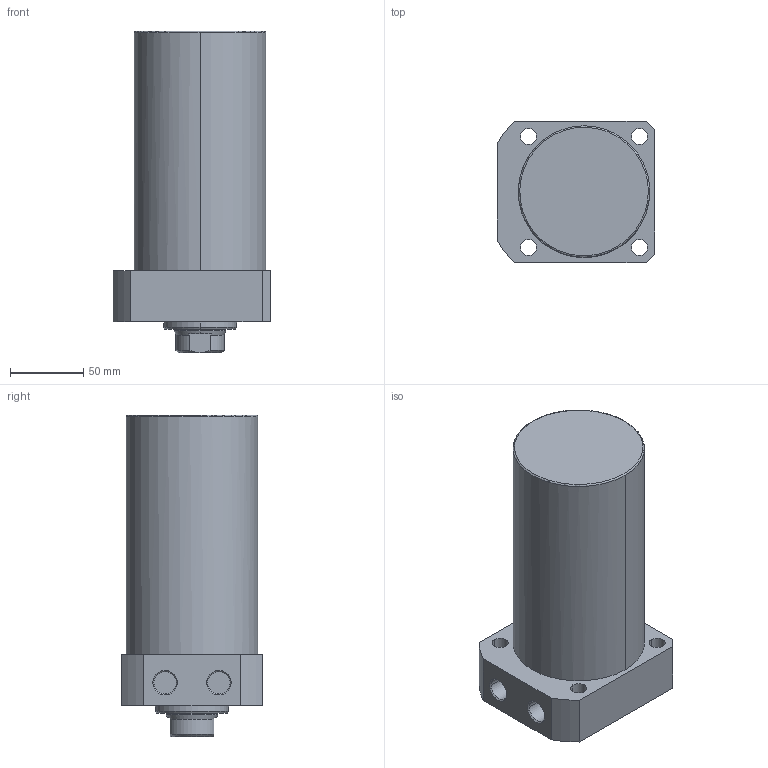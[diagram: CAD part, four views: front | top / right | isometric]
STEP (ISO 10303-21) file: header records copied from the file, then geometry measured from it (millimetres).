
FILE_DESCRIPTION((' '),'2;1');
FILE_NAME( 'TLLR-090CA-120.STEP.stp', '2025-10-24T16:35:18', (' '), ('--- Datakit www.datakit.com---'), ' Datakit CrossCadWare V2024.1 Dec 21 2023', 'Mastercam 2025', ' ');
FILE_SCHEMA(('AUTOMOTIVE_DESIGN { 1 0 10303 214 1 1 1 1 }'));
Length unit declared in the file: millimetre
Products named in the file (1): TLLR-090CA-120
Bounding box: 108 x 97 x 220 mm (x, y, z)
Volume: 1392228.3 mm3; surface area: 91457.3 mm2
Topology: 1 solids, 1 shells, 63 faces, 177 edges, 122 vertices
Faces by surface type: cylinder 28, plane 19, cone 14, torus 2
Entity records: 2172 total; most frequent: CARTESIAN_POINT 409, DIRECTION 400, ORIENTED_EDGE 350, EDGE_CURVE 175, AXIS2_PLACEMENT_3D 169, VERTEX_POINT 122, CIRCLE 105, EDGE_LOOP 79
